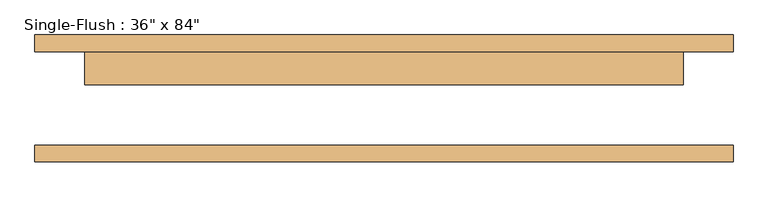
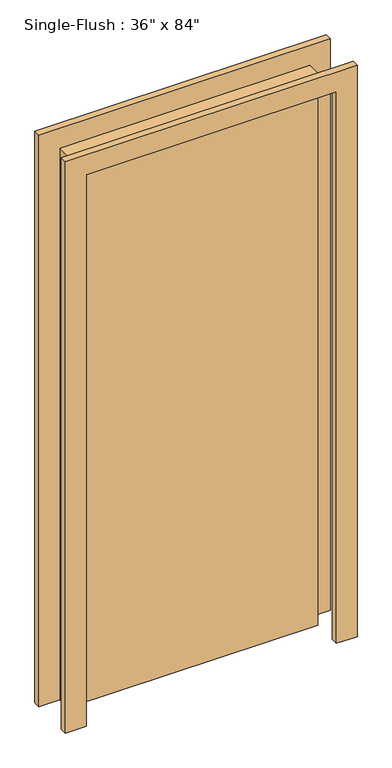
"""IFC4 building model written with IfcOpenShell, lengths in millimetres: door geometry."""

import ifcopenshell
import ifcopenshell.guid

model = None  # the IFC model being written
_history = None  # IfcOwnerHistory: only IFC2X3 demands one
_inside = {}  # id of a spatial element -> (the spatial element, [elements in it])
_under = {}  # id of a project, library or spatial element -> (it, [spatial elements below it])
_declared = {}  # id of a project -> (the project, [libraries it declares])
_typed = {}  # id of a type object -> (the type object, [elements of that type])
_made_of = {}  # id of a material, layer set ... -> (it, [elements and type objects made of it])


def new_model(schema):
    """Start an empty IFC model of exactly this schema.

    Asked for "IFC4X3", IfcOpenShell would pick the latest addendum, in which some entities
    have other attributes; the version numbers below select the first issue.
    IFC2X3 requires an IfcOwnerHistory on every rooted entity: one is made here for all.
    """
    global model, _history
    if schema == "IFC4X3":
        model = ifcopenshell.file(schema_version=(4, 3, 0, 0))
    else:
        model = ifcopenshell.file(schema=schema)
    _inside.clear()
    _under.clear()
    _declared.clear()
    _typed.clear()
    _made_of.clear()
    _history = None
    if model.schema == "IFC2X3":
        org = make("IfcOrganization", Name="unknown")
        user = make(
            "IfcPersonAndOrganization",
            ThePerson=make("IfcPerson", FamilyName="unknown"),
            TheOrganization=org,
        )
        app = make(
            "IfcApplication",
            ApplicationDeveloper=org,
            Version="unknown",
            ApplicationFullName="unknown",
            ApplicationIdentifier="unknown",
        )
        _history = make(
            "IfcOwnerHistory",
            OwningUser=user,
            OwningApplication=app,
            ChangeAction="ADDED",
            CreationDate=0,
        )
    return model


def make(cls, **values):
    """One entity of the class cls with the attributes given. An attribute that is None is left unset."""
    return model.create_entity(
        cls, **{name: value for name, value in values.items() if value is not None}
    )


def rooted(cls, **values):
    """An entity with a GlobalId (a new one), such as an element, a storey or a relation."""
    return make(cls, GlobalId=ifcopenshell.guid.new(), OwnerHistory=_history, **values)


def si_unit(unit_type, name, prefix=None):
    """IfcSIUnit, for example si_unit("LENGTHUNIT", "METRE", prefix="MILLI")."""
    return make("IfcSIUnit", UnitType=unit_type, Prefix=prefix, Name=name)


def assignment(units):
    """IfcUnitAssignment: the units of a project."""
    return None if units is None else make("IfcUnitAssignment", Units=units)


def point(xyz):
    """IfcCartesianPoint."""
    return None if xyz is None else make("IfcCartesianPoint", Coordinates=xyz)


def direction(xyz):
    """IfcDirection."""
    return None if xyz is None else make("IfcDirection", DirectionRatios=xyz)


def frame(location, z_axis=None, x_axis=None):
    """IfcAxis2Placement3D, a coordinate frame: its origin and axes. An axis left out is left unset."""
    return make(
        "IfcAxis2Placement3D",
        Location=point(location),
        Axis=direction(z_axis),
        RefDirection=direction(x_axis),
    )


def origin():
    """The frame at (0, 0, 0) with its axes left unset."""
    return frame((0.0, 0.0, 0.0))


def origin_with_axes():
    """The frame at (0, 0, 0) with the z axis (0, 0, 1) and the x axis (1, 0, 0) written out."""
    return frame((0.0, 0.0, 0.0), z_axis=(0.0, 0.0, 1.0), x_axis=(1.0, 0.0, 0.0))


def place(relative_to, where):
    """IfcLocalPlacement: puts the frame where relative to a parent placement (None: the world)."""
    return make(
        "IfcLocalPlacement", PlacementRelTo=relative_to, RelativePlacement=where
    )


def context(
    kind, dimensions, precision=None, world=None, true_north=None, identifier=None
):
    """IfcGeometricRepresentationContext, for example the 3D "Model" context."""
    return make(
        "IfcGeometricRepresentationContext",
        ContextIdentifier=identifier,
        ContextType=kind,
        CoordinateSpaceDimension=dimensions,
        Precision=precision,
        WorldCoordinateSystem=world,
        TrueNorth=true_north,
    )


def project(units=None, contexts=None):
    """IfcProject with its units and contexts."""
    return rooted(
        "IfcProject",
        Name="project",
        RepresentationContexts=contexts,
        UnitsInContext=assignment(units),
    )


def spatial(cls, under=None, at=None, **own):
    """A site, building, storey or space (cls), placed at a placement, below another one or the project."""
    s = rooted(cls, ObjectPlacement=at, **own)
    if under is not None:
        _under.setdefault(under.id(), (under, []))[1].append(s)
    return s


def polyline(points):
    """IfcPolyline through the points."""
    return make("IfcPolyline", Points=[point(p) for p in points])


def outline(outer, holes=None, kind="AREA"):
    """IfcArbitraryClosedProfileDef: a profile drawn as a closed curve; with holes, ...WithVoids."""
    if holes is None:
        return make("IfcArbitraryClosedProfileDef", ProfileType=kind, OuterCurve=outer)
    return make(
        "IfcArbitraryProfileDefWithVoids",
        ProfileType=kind,
        OuterCurve=outer,
        InnerCurves=holes,
    )


def extrude(swept, where, along, depth):
    """IfcExtrudedAreaSolid: the profile swept, set in the frame where, extruded along a direction by depth."""
    return make(
        "IfcExtrudedAreaSolid",
        SweptArea=swept,
        Position=where,
        ExtrudedDirection=direction(along),
        Depth=depth,
    )


def shape(context_of_items, identifier, shape_type, items):
    """IfcShapeRepresentation: the items that make up one representation, for example the "Body"."""
    return make(
        "IfcShapeRepresentation",
        ContextOfItems=context_of_items,
        RepresentationIdentifier=identifier,
        RepresentationType=shape_type,
        Items=items,
    )


def source(mapping_origin, context_of_items, identifier, shape_type, items):
    """IfcRepresentationMap: a shape defined once, which mapped items show again and again."""
    return make(
        "IfcRepresentationMap",
        MappingOrigin=mapping_origin,
        MappedRepresentation=shape(context_of_items, identifier, shape_type, items),
    )


def transform(
    local_origin,
    x_axis=None,
    y_axis=None,
    z_axis=None,
    scale=None,
    scale2=None,
    scale3=None,
    uniform=True,
):
    """IfcCartesianTransformationOperator3D, or its non-uniform kind. x_axis, y_axis, z_axis: its Axis1, 2, 3."""
    if uniform:
        return make(
            "IfcCartesianTransformationOperator3D",
            Axis1=direction(x_axis),
            Axis2=direction(y_axis),
            LocalOrigin=point(local_origin),
            Scale=scale,
            Axis3=direction(z_axis),
        )
    return make(
        "IfcCartesianTransformationOperator3DnonUniform",
        Axis1=direction(x_axis),
        Axis2=direction(y_axis),
        LocalOrigin=point(local_origin),
        Scale=scale,
        Axis3=direction(z_axis),
        Scale2=scale2,
        Scale3=scale3,
    )


def mapped(mapping_source, mapping_target):
    """IfcMappedItem: shows the shape of a source again, moved by a transform."""
    return make(
        "IfcMappedItem", MappingSource=mapping_source, MappingTarget=mapping_target
    )


def made_of(thing, what):
    """Note that an element or type object is made of a material, layer set ...; save() writes the relation."""
    if what is not None:
        _made_of.setdefault(what.id(), (what, []))[1].append(thing)
    return thing


def element(
    cls,
    number,
    at=None,
    inside=None,
    cuts=None,
    type_object=None,
    material=None,
    context=None,
    identifier="Body",
    shape_type=None,
    held_by="IfcProductDefinitionShape",
    body=None,
    shapes=None,
    **own,
):
    """One element of the class cls, such as IfcWall. Its Tag is "e" and its number.

    at: its placement. inside: the storey or other place that contains it. cuts: it is an
    opening in that element (IfcRelVoidsElement). A single representation is given by context,
    identifier, shape_type and body (its items); several are given by shapes. held_by: the class
    of the entity that holds the representations. save() writes the other relations.
    """
    e = rooted(cls, Tag="e%d" % number, ObjectPlacement=at, **own)
    if body is not None:
        shapes = [shape(context, identifier, shape_type, body)]
    if shapes is not None:
        e.Representation = make(held_by, Representations=shapes)
    if inside is not None:
        _inside.setdefault(inside.id(), (inside, []))[1].append(e)
    if cuts is not None:
        rooted(
            "IfcRelVoidsElement", RelatingBuildingElement=cuts, RelatedOpeningElement=e
        )
    if type_object is not None:
        _typed.setdefault(type_object.id(), (type_object, []))[1].append(e)
    return made_of(e, material)


def aggregate(whole, parts):
    """IfcRelAggregates: a whole, such as a stair, and the parts it consists of."""
    return rooted("IfcRelAggregates", RelatingObject=whole, RelatedObjects=parts)


def save(model, path):
    """Write the relations noted so far, then the file.

    IfcRelAggregates (storeys below a building ...), IfcRelContainedInSpatialStructure (elements
    in a storey), IfcRelDefinesByType, IfcRelAssociatesMaterial and IfcRelDeclares: one each for
    every whole, place, type object, material and project.
    """
    for whole, parts in _under.values():
        aggregate(whole, parts)
    for where, things in _inside.values():
        rooted(
            "IfcRelContainedInSpatialStructure",
            RelatedElements=things,
            RelatingStructure=where,
        )
    for kind, things in _typed.values():
        rooted("IfcRelDefinesByType", RelatedObjects=things, RelatingType=kind)
    for what, things in _made_of.values():
        rooted("IfcRelAssociatesMaterial", RelatedObjects=things, RelatingMaterial=what)
    for by, libraries in _declared.values():
        rooted("IfcRelDeclares", RelatingContext=by, RelatedDefinitions=libraries)
    model.write(path)


def door_3dff5d0e(model_context):
    return source(origin(), model_context, "Body", "SweptSolid", [
        extrude(outline(polyline([(2209.8, -533.4), (0.0, -533.4), (0.0, -457.2), (2133.6, -457.2), (2133.6, 457.2), (0.0, 457.2), (0.0, 533.4), (2209.8, 533.4), (2209.8, -533.4)])), frame((0.0, 71.4375, 0.0), z_axis=(0.0, 1.0, 0.0), x_axis=(0.0, 0.0, 1.0)), (0.0, 0.0, 1.0), 25.4),
        extrude(outline(polyline([(2209.8, 533.4), (2209.8, -533.4), (0.0, -533.4), (0.0, -457.2), (2133.6, -457.2), (2133.6, 457.2), (0.0, 457.2), (0.0, 533.4), (2209.8, 533.4)])), frame((0.0, -96.8375, 0.0), z_axis=(0.0, 1.0, 0.0), x_axis=(0.0, 0.0, 1.0)), (0.0, 0.0, 1.0), 25.4),
        extrude(outline(polyline([(457.2, 20.6375), (-457.2, 20.6375), (-457.2, 71.4375), (457.2, 71.4375), (457.2, 20.6375)])), origin_with_axes(), (0.0, 0.0, 1.0), 2133.6),
    ])


if __name__ == "__main__":
    model = new_model("IFC4")
    model_context = context("Model", 3, world=origin())
    ifc_project = project(units=[si_unit("LENGTHUNIT", "METRE", prefix="MILLI")], contexts=[model_context])
    site = spatial("IfcSite", under=ifc_project)
    building = spatial("IfcBuilding", under=site)
    placement = place(None, origin())
    door_shape = door_3dff5d0e(model_context)
    element("IfcDoor", 1, ObjectType="Single-Flush : 36\" x 84\"", at=placement, inside=building, context=model_context, shape_type="MappedRepresentation", body=[
        mapped(door_shape, transform((0.0, 0.0, 0.0), x_axis=(1.0, 0.0, 0.0), y_axis=(0.0, 1.0, 0.0), z_axis=(0.0, 0.0, 1.0))),
    ])
    save(model, "model.ifc")
